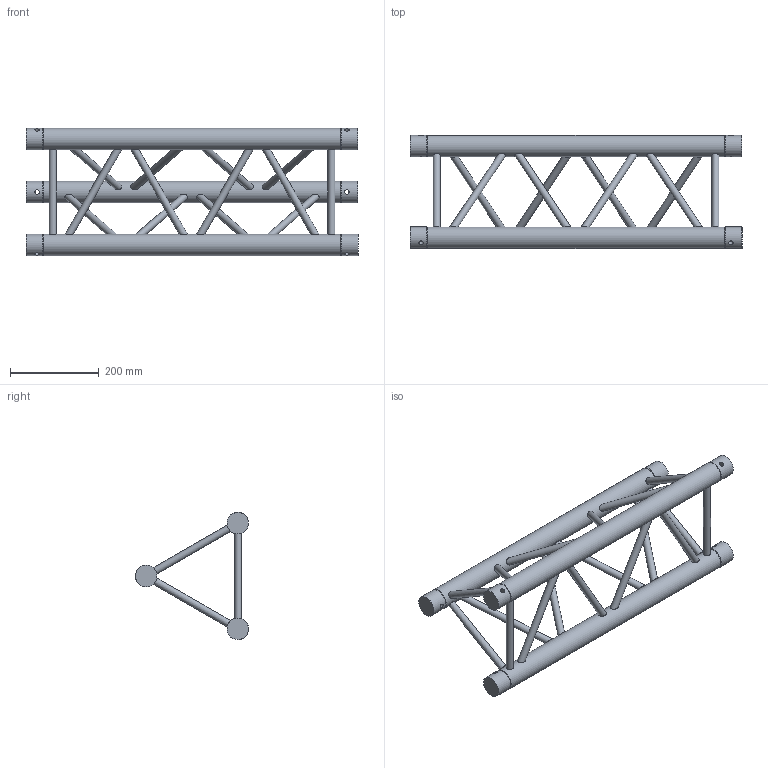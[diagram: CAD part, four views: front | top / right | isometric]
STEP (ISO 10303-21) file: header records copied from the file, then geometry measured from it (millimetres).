
FILE_DESCRIPTION(/* description */ (''),/* implementation_level */ '2;1');
FILE_NAME(/* name */ 'M:\Symbolen\STP\30-er truss\111050011.stp',/* time_stamp */ '2014-12-03T11:34:13+01:00',/* author */ ('Stephan'),/* organization */ (''),/* preprocessor_version */ 'ST-DEVELOPER v15.6',/* originating_system */ 'Autodesk Inventor 2015',/* authorisation */ '');
FILE_SCHEMA (('AUTOMOTIVE_DESIGN { 1 0 10303 214 3 1 1 }'));
Length unit declared in the file: millimetre
Products named in the file (1): 160023774
Bounding box: 750 x 255.28 x 287.3 mm (x, y, z)
Volume: 4399383 mm3; surface area: 561178 mm2
Topology: 15 solids, 21 shells, 99 faces, 165 edges, 108 vertices
Faces by surface type: plane 60, cylinder 33, cone 6
Full cylindrical faces by diameter (mm): 10 x6, 16 x18, 48.3 x9
Entity records: 2688 total; most frequent: CARTESIAN_POINT 724, DIRECTION 356, ORIENTED_EDGE 240, AXIS2_PLACEMENT_3D 172, EDGE_LOOP 168, STYLED_ITEM 112, EDGE_CURVE 108, FACE_OUTER_BOUND 99
